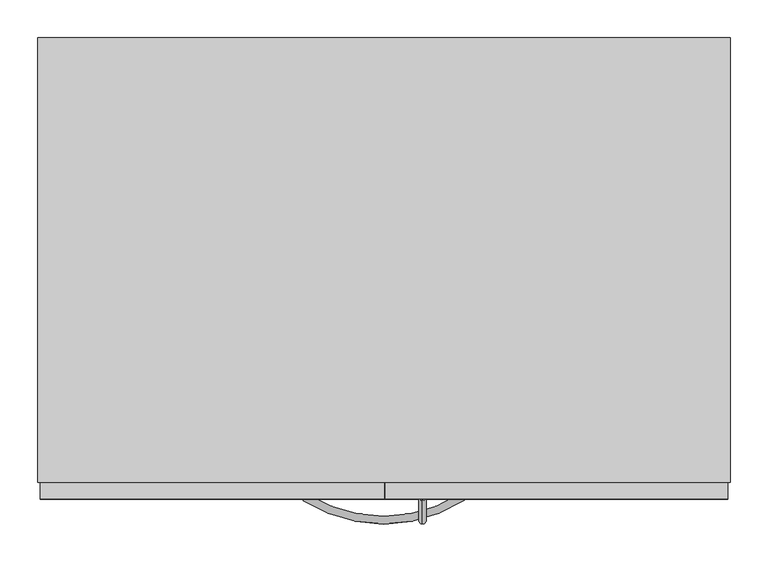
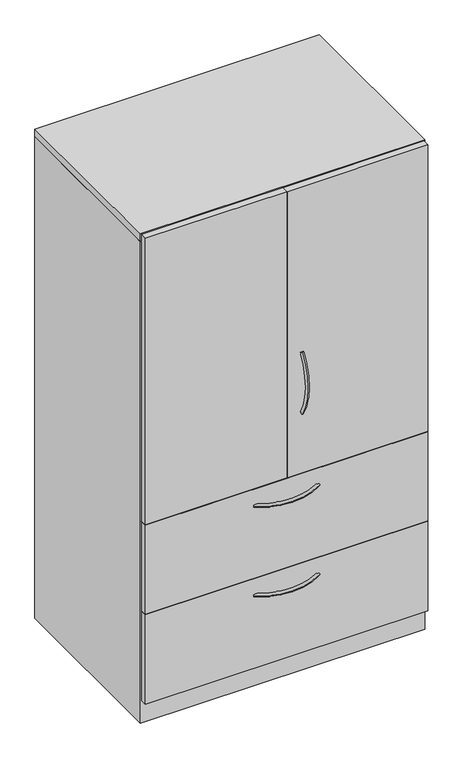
"""IFC4 building model written with IfcOpenShell, lengths in millimetres: furniture geometry, Steelcase - Universal Storage - Cabinet - Combination - Proud Steel : 65 1/2H - Hinged Doors/2 Drawers - 24D x 36W."""

from ifc_helpers import new_model, si_unit, point, frame, origin, place, context, project, spatial, polyline, circle_curve, ellipse_curve, trimmed, outline, extrude, faceted_brep, source, transform, mapped, element, save
from ifc_brep_helpers import plane_surface, revolved_surface, advanced_brep


def furniture_9eed476e(model_context):
    return source(origin(), model_context, "Body", "SolidModel", [
        extrude(outline(polyline([(911.2225413, -479.552), (3.1725353, -479.552), (3.1725353, -457.3261219), (911.2225413, -457.3261219), (911.2225413, -479.552)])), frame((0.0, 0.0, 77.724), z_axis=(0.0, 0.0, 1.0), x_axis=(1.0, 0.0, 0.0)), (0.0, 0.0, 1.0), 303.276),
        extrude(outline(polyline([(911.2225413, -479.552), (3.1725353, -479.552), (3.1725353, -457.3261219), (911.2225413, -457.3261219), (911.2225413, -479.552)])), frame((0.0, 0.0, 382.524), z_axis=(0.0, 0.0, 1.0), x_axis=(1.0, 0.0, 0.0)), (0.0, 0.0, 1.0), 303.276),
        extrude(outline(polyline([(457.2, -479.552), (3.1725353, -479.552), (3.1725353, -457.3261219), (457.2, -457.3261219), (457.2, -479.552)])), frame((0.0, 0.0, 687.7062596), z_axis=(0.0, 0.0, 1.0), x_axis=(1.0, 0.0, 0.0)), (0.0, 0.0, 1.0), 972.82),
        extrude(outline(polyline([(911.2225413, -479.552), (458.7239992, -479.552), (458.7239992, -457.3261219), (911.2225413, -457.3261219), (911.2225413, -479.552)])), frame((0.0, 0.0, 687.7062596), z_axis=(0.0, 0.0, 1.0), x_axis=(1.0, 0.0, 0.0)), (0.0, 0.0, 1.0), 972.82),
        advanced_brep(
        [(507.9682496, -481.5705994, 1099.843666), (507.9682496, -473.0108019, 1094.3705073), (507.9682496, -481.1337636, 887.5367456), (507.9682496, -472.5965612, 893.0450825)],
        [
            (0, 1, circle_curve(frame((507.9682496, -477.2907007, 1097.1070866), z_axis=(0.0, 0.5386967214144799, 0.842499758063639), x_axis=(0.0, 0.842499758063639, -0.5386967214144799)), 5.08)),
            (1, 0, circle_curve(frame((507.9682496, -477.2907007, 1097.1070866), z_axis=(0.0, 0.5386967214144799, 0.842499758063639), x_axis=(0.0, 0.842499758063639, -0.5386967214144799)), 5.08)),
            (2, 3, circle_curve(frame((507.9682496, -476.8651624, 890.2909141), z_axis=(0.0, 0.5421591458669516, -0.8402758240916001), x_axis=(0.0, 0.8402758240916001, 0.5421591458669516)), 5.08)),
            (3, 2, circle_curve(frame((507.9682496, -476.8651624, 890.2909141), z_axis=(0.0, 0.5421591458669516, -0.8402758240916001), x_axis=(0.0, 0.8402758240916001, 0.5421591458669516)), 5.08)),
            (3, 1, circle_curve(frame((507.9682496, -316.0827352, 994.0302589), z_axis=(-1.0, 0.0, 0.0), x_axis=(0.0, -0.8424997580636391, 0.5386967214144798)), 186.2648211)),
            (0, 2, circle_curve(frame((507.9682496, -316.0827352, 994.0302589), z_axis=(1.0, 0.0, 0.0), x_axis=(0.0, -0.8424997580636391, 0.5386967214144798)), 196.4248211)),
        ],
        [
            plane_surface(frame((508.7619996, -476.6365286, 1096.6888072), z_axis=(0.0, 0.5386967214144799, 0.8424997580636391), x_axis=(1.0, 0.0, 0.0))),
            plane_surface(frame((508.7619996, -476.2127171, 890.711882), z_axis=(0.0, 0.5421591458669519, -0.8402758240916), x_axis=(1.0, 0.0, 0.0))),
            revolved_surface(trimmed(ellipse_curve(frame((507.9682496, -477.2907007, 1097.1070866), z_axis=(0.0, 0.5386967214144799, 0.842499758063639), x_axis=(0.0, 0.842499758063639, -0.5386967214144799)), 5.08, 5.08), [point((507.9682496, -481.5705994, 1099.843666))], [point((507.9682496, -473.0108019, 1094.3705073))], True, "CARTESIAN"), (508.7619996, -316.0827352, 994.0302589), (1.0, 0.0, 0.0)),
            revolved_surface(trimmed(ellipse_curve(frame((507.9682496, -477.2907007, 1097.1070866), z_axis=(0.0, 0.5386967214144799, 0.842499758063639), x_axis=(0.0, 0.842499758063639, -0.5386967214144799)), 5.08, 5.08), [point((507.9682496, -473.0108019, 1094.3705073))], [point((507.9682496, -481.5705994, 1099.843666))], True, "CARTESIAN"), (508.7619996, -316.0827352, 994.0302589), (1.0, 0.0, 0.0)),
        ],
        [
            (0, [[1, 2]]),
            (1, [[3, 4]]),
            (2, [[5, -1, 6, -4]]),
            (3, [[-6, -2, -5, -3]]),
        ],
    ),
        advanced_brep(
        [(350.6245932, -481.5705994, 323.56425), (356.0977519, -473.0108019, 323.56425), (562.9315136, -481.1337636, 323.56425), (557.4231767, -472.5965612, 323.56425)],
        [
            (0, 1, circle_curve(frame((353.3611726, -477.2907007, 323.56425), z_axis=(-0.8424997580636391, 0.5386967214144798, 0.0), x_axis=(0.5386967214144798, 0.8424997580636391, 0.0)), 5.08)),
            (1, 0, circle_curve(frame((353.3611726, -477.2907007, 323.56425), z_axis=(-0.8424997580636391, 0.5386967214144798, 0.0), x_axis=(0.5386967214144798, 0.8424997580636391, 0.0)), 5.08)),
            (2, 3, circle_curve(frame((560.1773452, -476.8651624, 323.56425), z_axis=(0.8402758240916, 0.5421591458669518, 0.0), x_axis=(-0.5421591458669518, 0.8402758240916, 0.0)), 5.08)),
            (3, 2, circle_curve(frame((560.1773452, -476.8651624, 323.56425), z_axis=(0.8402758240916, 0.5421591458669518, 0.0), x_axis=(-0.5421591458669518, 0.8402758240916, 0.0)), 5.08)),
            (3, 1, circle_curve(frame((456.4380004, -316.0827352, 323.56425), z_axis=(0.0, 0.0, -1.0), x_axis=(-0.5386967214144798, -0.8424997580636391, 0.0)), 186.2648211)),
            (0, 2, circle_curve(frame((456.4380004, -316.0827352, 323.56425), z_axis=(0.0, 0.0, 1.0), x_axis=(-0.5386967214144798, -0.8424997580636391, 0.0)), 196.4248211)),
        ],
        [
            plane_surface(frame((353.7794521, -476.6365286, 324.358), z_axis=(-0.8424997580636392, 0.5386967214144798, 0.0), x_axis=(0.0, 0.0, 1.0))),
            plane_surface(frame((559.7563772, -476.2127171, 324.358), z_axis=(0.8402758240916, 0.5421591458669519, 0.0), x_axis=(0.0, 0.0, 1.0))),
            revolved_surface(trimmed(ellipse_curve(frame((353.3611726, -477.2907007, 323.56425), z_axis=(-0.8424997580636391, 0.5386967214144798, 0.0), x_axis=(0.5386967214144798, 0.8424997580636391, 0.0)), 5.08, 5.08), [point((350.6245932, -481.5705994, 323.56425))], [point((356.0977519, -473.0108019, 323.56425))], True, "CARTESIAN"), (456.4380004, -316.0827352, 324.358), (0.0, 0.0, 1.0)),
            revolved_surface(trimmed(ellipse_curve(frame((353.3611726, -477.2907007, 323.56425), z_axis=(-0.8424997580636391, 0.5386967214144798, 0.0), x_axis=(0.5386967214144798, 0.8424997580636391, 0.0)), 5.08, 5.08), [point((356.0977519, -473.0108019, 323.56425))], [point((350.6245932, -481.5705994, 323.56425))], True, "CARTESIAN"), (456.4380004, -316.0827352, 324.358), (0.0, 0.0, 1.0)),
        ],
        [
            (0, [[1, 2]]),
            (1, [[3, 4]]),
            (2, [[5, -1, 6, -4]]),
            (3, [[-6, -2, -5, -3]]),
        ],
    ),
        advanced_brep(
        [(350.6245932, -481.5705994, 627.85625), (356.0977519, -473.0108019, 627.85625), (562.9315136, -481.1337636, 627.85625), (557.4231767, -472.5965612, 627.85625)],
        [
            (0, 1, circle_curve(frame((353.3611726, -477.2907007, 627.85625), z_axis=(-0.8424997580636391, 0.5386967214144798, 0.0), x_axis=(0.5386967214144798, 0.8424997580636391, 0.0)), 5.08)),
            (1, 0, circle_curve(frame((353.3611726, -477.2907007, 627.85625), z_axis=(-0.8424997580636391, 0.5386967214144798, 0.0), x_axis=(0.5386967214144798, 0.8424997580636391, 0.0)), 5.08)),
            (2, 3, circle_curve(frame((560.1773452, -476.8651624, 627.85625), z_axis=(0.8402758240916, 0.5421591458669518, 0.0), x_axis=(-0.5421591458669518, 0.8402758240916, 0.0)), 5.08)),
            (3, 2, circle_curve(frame((560.1773452, -476.8651624, 627.85625), z_axis=(0.8402758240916, 0.5421591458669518, 0.0), x_axis=(-0.5421591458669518, 0.8402758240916, 0.0)), 5.08)),
            (3, 1, circle_curve(frame((456.4380004, -316.0827352, 627.85625), z_axis=(0.0, 0.0, -1.0), x_axis=(-0.5386967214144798, -0.8424997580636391, 0.0)), 186.2648211)),
            (0, 2, circle_curve(frame((456.4380004, -316.0827352, 627.85625), z_axis=(0.0, 0.0, 1.0), x_axis=(-0.5386967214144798, -0.8424997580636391, 0.0)), 196.4248211)),
        ],
        [
            plane_surface(frame((353.7794521, -476.6365286, 628.65), z_axis=(-0.8424997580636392, 0.5386967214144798, 0.0), x_axis=(0.0, 0.0, 1.0))),
            plane_surface(frame((559.7563772, -476.2127171, 628.65), z_axis=(0.8402758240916, 0.5421591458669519, 0.0), x_axis=(0.0, 0.0, 1.0))),
            revolved_surface(trimmed(ellipse_curve(frame((353.3611726, -477.2907007, 627.85625), z_axis=(-0.8424997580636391, 0.5386967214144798, 0.0), x_axis=(0.5386967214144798, 0.8424997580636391, 0.0)), 5.08, 5.08), [point((350.6245932, -481.5705994, 627.85625))], [point((356.0977519, -473.0108019, 627.85625))], True, "CARTESIAN"), (456.4380004, -316.0827352, 628.65), (0.0, 0.0, 1.0)),
            revolved_surface(trimmed(ellipse_curve(frame((353.3611726, -477.2907007, 627.85625), z_axis=(-0.8424997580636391, 0.5386967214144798, 0.0), x_axis=(0.5386967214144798, 0.8424997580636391, 0.0)), 5.08, 5.08), [point((356.0977519, -473.0108019, 627.85625))], [point((350.6245932, -481.5705994, 627.85625))], True, "CARTESIAN"), (456.4380004, -316.0827352, 628.65), (0.0, 0.0, 1.0)),
        ],
        [
            (0, [[1, 2]]),
            (1, [[3, 4]]),
            (2, [[5, -1, 6, -4]]),
            (3, [[-6, -2, -5, -3]]),
        ],
    ),
        faceted_brep([(25.4000008, -457.3261219, 76.2), (889.0000242, -457.3261219, 76.2), (889.0000242, 104.6479992, 76.2), (25.4000008, 104.6479992, 76.2), (914.4, 130.048, 0.0), (914.4, -457.3261219, 0.0), (0.0, -457.3261219, 0.0), (0.0, 130.048, 0.0), (0.0, 130.048, 1636.776), (914.4, 130.048, 1636.776), (0.0, -457.3261219, 1636.776), (914.4, -457.3261219, 1636.776), (889.0000242, -457.3261219, 1636.776), (25.4000008, -457.3261219, 1636.776), (889.0000242, 104.6479992, 1636.776), (25.4000008, 104.6479992, 1636.776)], [[[0, 1, 2, 3]], [[4, 5, 6, 7]], [[4, 7, 8, 9]], [[8, 7, 6, 10]], [[10, 6, 5, 11, 12, 1, 0, 13]], [[11, 5, 4, 9]], [[14, 12, 11, 9, 8, 10, 13, 15]], [[12, 14, 2, 1]], [[15, 13, 0, 3]], [[14, 15, 3, 2]]]),
        extrude(outline(polyline([(914.4, 130.048), (914.4, -457.3261219), (0.0, -457.3261219), (0.0, 130.048), (914.4, 130.048)])), frame((0.0, 0.0, 1638.2999516), z_axis=(0.0, 0.0, 1.0), x_axis=(1.0, 0.0, 0.0)), (0.0, 0.0, 1.0), 25.4000484),
    ])


if __name__ == "__main__":
    model = new_model("IFC4")
    model_context = context("Model", 3, world=origin())
    ifc_project = project(units=[si_unit("LENGTHUNIT", "METRE", prefix="MILLI")], contexts=[model_context])
    site = spatial("IfcSite", under=ifc_project)
    building = spatial("IfcBuilding", under=site)
    placement = place(None, origin())
    furniture_shape = furniture_9eed476e(model_context)
    element("IfcFurniture", 1, ObjectType="Steelcase - Universal Storage - Cabinet - Combination - Proud Steel : 65 1/2H - Hinged Doors/2 Drawers - 24D x 36W", at=placement, inside=building, context=model_context, shape_type="MappedRepresentation", body=[
        mapped(furniture_shape, transform((0.0, 0.0, 0.0), x_axis=(1.0, 0.0, 0.0), y_axis=(0.0, 1.0, 0.0), z_axis=(0.0, 0.0, 1.0))),
    ])
    save(model, "model.ifc")
